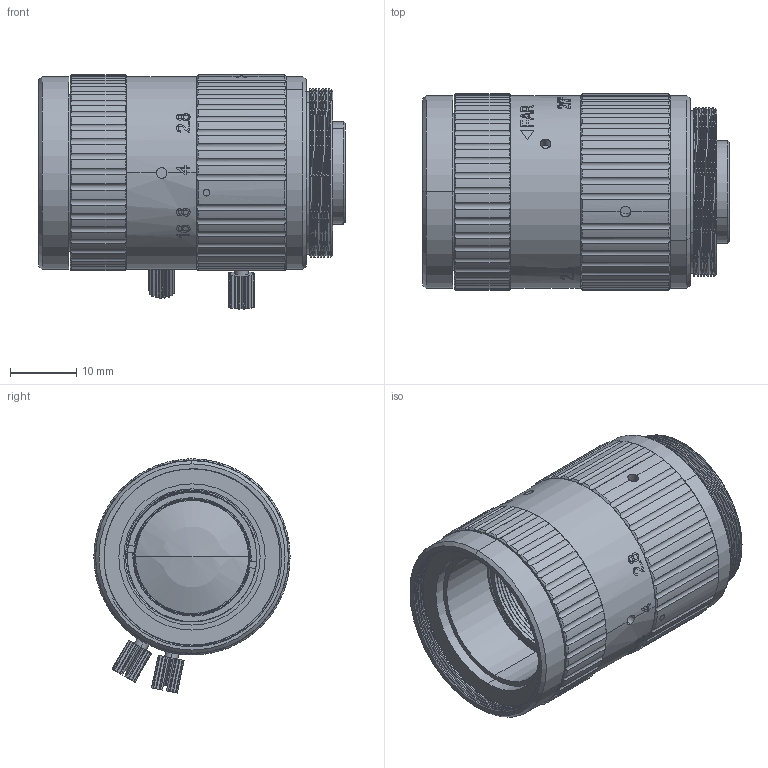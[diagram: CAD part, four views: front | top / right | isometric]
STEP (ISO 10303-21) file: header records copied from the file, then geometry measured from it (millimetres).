
FILE_DESCRIPTION (( 'STEP AP203' ), '1' );
FILE_NAME ('35mm蚾饜极.STEP', '2022-08-16T03:27:35', ( '' ), ( '' ), 'SwSTEP 2.0', 'SolidWorks 2020', '' );
FILE_SCHEMA (( 'CONFIG_CONTROL_DESIGN' ));
Length unit declared in the file: millimetre
Products named in the file (15): 后压圈; 35mm蟀諉釱; 絳杶; 35mm擄蝴遠; 35mm翋噩芠; 絳隊; 嫖擊絳隊; ǰѹȦ; G1; 蹟隊; G7G8; 35mmヶ噩芠; 2瘍脣种; 35mm嫖擊遠; 35mm蚾饜极
Assembly tree (17 placements, depth 2):
  35mm蚾饜极
    35mm嫖擊遠
    35mm擄蝴遠
    35mm蟀諉釱
    35mm翋噩芠
    嫖擊絳隊
    35mmヶ噩芠
    2瘍脣种  x2
    絳隊
    絳杶
    蹟隊  x3
    G1
    G7G8
    后压圈
    ǰѹȦ
Bounding box: 46.09 x 29.5 x 35.23 mm (x, y, z)
Volume: 17047.9 mm3; surface area: 25419.8 mm2
Topology: 18 solids, 18 shells, 1482 faces, 3879 edges, 2503 vertices
Faces by surface type: cylinder 595, plane 380, bspline 263, cone 234, sphere 8, torus 2
Entity records: 79142 total; most frequent: CARTESIAN_POINT 46936, ORIENTED_EDGE 7168, DIRECTION 5348, EDGE_CURVE 3584, VERTEX_POINT 2313, AXIS2_PLACEMENT_3D 2142, EDGE_LOOP 1501, FACE_OUTER_BOUND 1376
